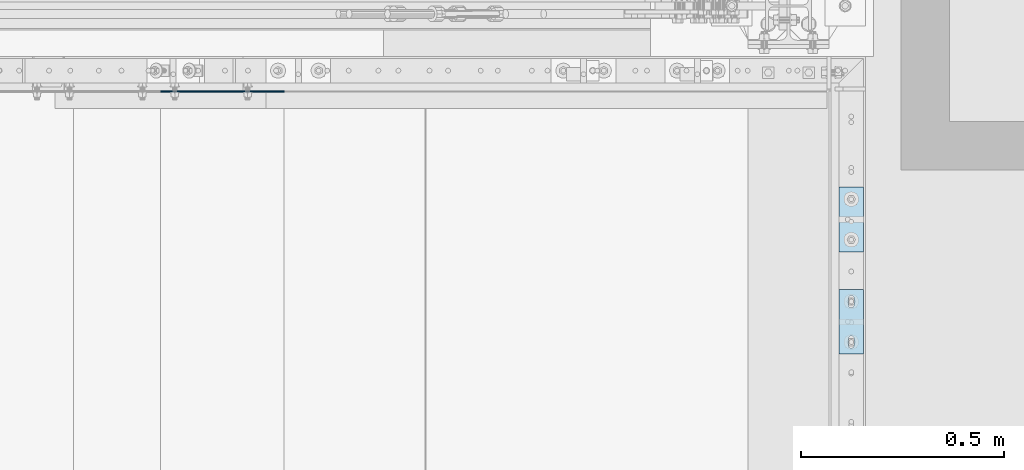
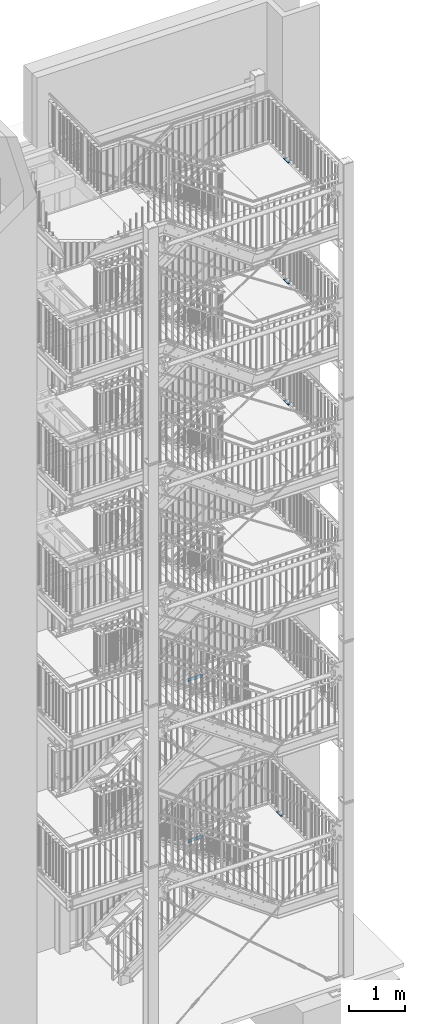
# One storey, part 210 of 831: 6 plates, 12 openings.
"""IFC2X3 building model written with IfcOpenShell, lengths in millimetres."""

from ifc_helpers import new_model, entity, si_unit, converted_unit, point, frame, frame_2d, origin, origin_with_axes, origin_2d_with_axis, place, context, project, spatial, polyline, circle_curve, line_curve, trimmed, segment, composite_curve, circle, outline, extrude, material, layer, layer_set, element, save


model = new_model("IFC2X3")

# Units and contexts
model_context = context("Model", 3, precision=1e-09, world=origin_with_axes())
ifc_project = project(units=[si_unit("LENGTHUNIT", "METRE", prefix="MILLI"), si_unit("AREAUNIT", "SQUARE_METRE"), si_unit("VOLUMEUNIT", "CUBIC_METRE"), converted_unit("PLANEANGLEUNIT", "DEGREE", entity("IfcPlaneAngleMeasure", 0.01745329), si_unit("PLANEANGLEUNIT", "RADIAN"), dimensions=[0, 0, 0, 0, 0, 0, 0])], contexts=[model_context])

# Site, building, storey
site_placement = place(None, origin_with_axes())
site = spatial("IfcSite", under=ifc_project, at=site_placement, Name="Site", CompositionType="ELEMENT")
building_placement = place(site_placement, origin_with_axes())
building = spatial("IfcBuilding", under=site, at=building_placement, Name="Struktur 1", CompositionType="ELEMENT")
storey_placement = place(building_placement, origin_with_axes())
storey = spatial("IfcBuildingStorey", under=building, at=storey_placement, Name="Default Storey", CompositionType="ELEMENT", Elevation=0.0)

# Plate, openings
ifc_material = material(Name="S235JR")
ifc_layer_1 = layer(ifc_material, 20.0)
ifc_layer_set_1 = layer_set([ifc_layer_1], Name="S235JR")
plate_1_placement = place(None, frame((9051.713402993, 6656.736257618, 11265.5000003), z_axis=(0.0, 0.0, 1.0), x_axis=(0.0, 1.0, 0.0)))
plate_1 = element("IfcPlate", 1, at=plate_1_placement, inside=storey, material=ifc_layer_set_1, Name="Plate#505", ObjectType="Plate#505", context=model_context, shape_type="SweptSolid", body=[
    extrude(outline(polyline([(0.0, 0.0), (160.0, 0.0), (160.0, 60.0), (0.0, 60.0), (0.0, 0.0)])), origin_with_axes(), (0.0, 0.0, 1.0), 20.0),
])
opening_1_placement = place(plate_1_placement, frame((38.0, 37.001, 20.5), z_axis=(0.0, 0.0, 1.0), x_axis=(-1.0, 0.0, 0.0)))
element("IfcOpeningElement", 2, at=opening_1_placement, cuts=plate_1, ObjectType="Opening", context=model_context, shape_type="SweptSolid", body=[
    extrude(outline(composite_curve([segment(trimmed(line_curve((0.0, 0.0), (1.0, 0.0), 16.0), [point((0.0, 0.0))], [point((16.0, 0.0))], True, "CARTESIAN"), True, "CONTINUOUS"), segment(trimmed(circle_curve(frame_2d((16.0, 7.001), x_axis=(1.0, 0.0)), 7.001), [point((16.0, 0.0))], [point((16.0, 14.002))], True, "CARTESIAN"), True, "CONTINUOUS"), segment(trimmed(line_curve((16.0, 14.002), (-1.0, 0.0), 16.0), [point((16.0, 14.002))], [point((0.0, 14.002))], True, "CARTESIAN"), True, "CONTINUOUS"), segment(trimmed(circle_curve(frame_2d((0.0, 7.001), x_axis=(1.0, 0.0)), 7.001), [point((0.0, 14.002))], [point((0.0, 0.0))], True, "CARTESIAN"), True, "CONTINUOUS")], self_intersect=False)), origin(), (0.0, 0.0, -1.0), 21.0),
])
opening_2_placement = place(plate_1_placement, frame((138.0, 37.001, 20.5), z_axis=(0.0, 0.0, 1.0), x_axis=(-1.0, 0.0, 0.0)))
element("IfcOpeningElement", 3, at=opening_2_placement, cuts=plate_1, ObjectType="Opening", context=model_context, shape_type="SweptSolid", body=[
    extrude(outline(composite_curve([segment(trimmed(line_curve((0.0, 0.0), (1.0, 0.0), 16.0), [point((0.0, 0.0))], [point((16.0, 0.0))], True, "CARTESIAN"), True, "CONTINUOUS"), segment(trimmed(circle_curve(frame_2d((16.0, 7.001), x_axis=(1.0, 0.0)), 7.001), [point((16.0, 0.0))], [point((16.0, 14.002))], True, "CARTESIAN"), True, "CONTINUOUS"), segment(trimmed(line_curve((16.0, 14.002), (-1.0, 0.0), 16.0), [point((16.0, 14.002))], [point((0.0, 14.002))], True, "CARTESIAN"), True, "CONTINUOUS"), segment(trimmed(circle_curve(frame_2d((0.0, 7.001), x_axis=(1.0, 0.0)), 7.001), [point((0.0, 14.002))], [point((0.0, 0.0))], True, "CARTESIAN"), True, "CONTINUOUS")], self_intersect=False)), origin(), (0.0, 0.0, -1.0), 21.0),
])

plate_2_placement = place(None, frame((9051.713402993, 6656.736257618, 13896.5000001), z_axis=(0.0, 0.0, 1.0), x_axis=(0.0, 1.0, 0.0)))
plate_2 = element("IfcPlate", 4, at=plate_2_placement, inside=storey, material=ifc_layer_set_1, Name="Plate#505", ObjectType="Plate#505", context=model_context, shape_type="SweptSolid", body=[
    extrude(outline(polyline([(0.0, 0.0), (160.0, 0.0), (160.0, 60.0), (0.0, 60.0), (0.0, 0.0)])), origin_with_axes(), (0.0, 0.0, 1.0), 20.0),
])
opening_3_placement = place(plate_2_placement, frame((38.0, 37.001, 20.5), z_axis=(0.0, 0.0, 1.0), x_axis=(-1.0, 0.0, 0.0)))
element("IfcOpeningElement", 5, at=opening_3_placement, cuts=plate_2, ObjectType="Opening", context=model_context, shape_type="SweptSolid", body=[
    extrude(outline(composite_curve([segment(trimmed(line_curve((0.0, 0.0), (1.0, 0.0), 16.0), [point((0.0, 0.0))], [point((16.0, 0.0))], True, "CARTESIAN"), True, "CONTINUOUS"), segment(trimmed(circle_curve(frame_2d((16.0, 7.001), x_axis=(1.0, 0.0)), 7.001), [point((16.0, 0.0))], [point((16.0, 14.002))], True, "CARTESIAN"), True, "CONTINUOUS"), segment(trimmed(line_curve((16.0, 14.002), (-1.0, 0.0), 16.0), [point((16.0, 14.002))], [point((0.0, 14.002))], True, "CARTESIAN"), True, "CONTINUOUS"), segment(trimmed(circle_curve(frame_2d((0.0, 7.001), x_axis=(1.0, 0.0)), 7.001), [point((0.0, 14.002))], [point((0.0, 0.0))], True, "CARTESIAN"), True, "CONTINUOUS")], self_intersect=False)), origin(), (0.0, 0.0, -1.0), 21.0),
])
opening_4_placement = place(plate_2_placement, frame((138.0, 37.001, 20.5), z_axis=(0.0, 0.0, 1.0), x_axis=(-1.0, 0.0, 0.0)))
element("IfcOpeningElement", 6, at=opening_4_placement, cuts=plate_2, ObjectType="Opening", context=model_context, shape_type="SweptSolid", body=[
    extrude(outline(composite_curve([segment(trimmed(line_curve((0.0, 0.0), (1.0, 0.0), 16.0), [point((0.0, 0.0))], [point((16.0, 0.0))], True, "CARTESIAN"), True, "CONTINUOUS"), segment(trimmed(circle_curve(frame_2d((16.0, 7.001), x_axis=(1.0, 0.0)), 7.001), [point((16.0, 0.0))], [point((16.0, 14.002))], True, "CARTESIAN"), True, "CONTINUOUS"), segment(trimmed(line_curve((16.0, 14.002), (-1.0, 0.0), 16.0), [point((16.0, 14.002))], [point((0.0, 14.002))], True, "CARTESIAN"), True, "CONTINUOUS"), segment(trimmed(circle_curve(frame_2d((0.0, 7.001), x_axis=(1.0, 0.0)), 7.001), [point((0.0, 14.002))], [point((0.0, 0.0))], True, "CARTESIAN"), True, "CONTINUOUS")], self_intersect=False)), origin(), (0.0, 0.0, -1.0), 21.0),
])

plate_3_placement = place(None, frame((9051.713402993, 6656.736257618, 16524.0000003), z_axis=(0.0, 0.0, 1.0), x_axis=(0.0, 1.0, 0.0)))
plate_3 = element("IfcPlate", 7, at=plate_3_placement, inside=storey, material=ifc_layer_set_1, Name="Plate#505", ObjectType="Plate#505", context=model_context, shape_type="SweptSolid", body=[
    extrude(outline(polyline([(0.0, 0.0), (160.0, 0.0), (160.0, 60.0), (0.0, 60.0), (0.0, 0.0)])), origin_with_axes(), (0.0, 0.0, 1.0), 20.0),
])
opening_5_placement = place(plate_3_placement, frame((38.0, 37.001, 20.5), z_axis=(0.0, 0.0, 1.0), x_axis=(-1.0, 0.0, 0.0)))
element("IfcOpeningElement", 8, at=opening_5_placement, cuts=plate_3, ObjectType="Opening", context=model_context, shape_type="SweptSolid", body=[
    extrude(outline(composite_curve([segment(trimmed(line_curve((0.0, 0.0), (1.0, 0.0), 16.0), [point((0.0, 0.0))], [point((16.0, 0.0))], True, "CARTESIAN"), True, "CONTINUOUS"), segment(trimmed(circle_curve(frame_2d((16.0, 7.001), x_axis=(1.0, 0.0)), 7.001), [point((16.0, 0.0))], [point((16.0, 14.002))], True, "CARTESIAN"), True, "CONTINUOUS"), segment(trimmed(line_curve((16.0, 14.002), (-1.0, 0.0), 16.0), [point((16.0, 14.002))], [point((0.0, 14.002))], True, "CARTESIAN"), True, "CONTINUOUS"), segment(trimmed(circle_curve(frame_2d((0.0, 7.001), x_axis=(1.0, 0.0)), 7.001), [point((0.0, 14.002))], [point((0.0, 0.0))], True, "CARTESIAN"), True, "CONTINUOUS")], self_intersect=False)), origin(), (0.0, 0.0, -1.0), 21.0),
])
opening_6_placement = place(plate_3_placement, frame((138.0, 37.001, 20.5), z_axis=(0.0, 0.0, 1.0), x_axis=(-1.0, 0.0, 0.0)))
element("IfcOpeningElement", 9, at=opening_6_placement, cuts=plate_3, ObjectType="Opening", context=model_context, shape_type="SweptSolid", body=[
    extrude(outline(composite_curve([segment(trimmed(line_curve((0.0, 0.0), (1.0, 0.0), 16.0), [point((0.0, 0.0))], [point((16.0, 0.0))], True, "CARTESIAN"), True, "CONTINUOUS"), segment(trimmed(circle_curve(frame_2d((16.0, 7.001), x_axis=(1.0, 0.0)), 7.001), [point((16.0, 0.0))], [point((16.0, 14.002))], True, "CARTESIAN"), True, "CONTINUOUS"), segment(trimmed(line_curve((16.0, 14.002), (-1.0, 0.0), 16.0), [point((16.0, 14.002))], [point((0.0, 14.002))], True, "CARTESIAN"), True, "CONTINUOUS"), segment(trimmed(circle_curve(frame_2d((0.0, 7.001), x_axis=(1.0, 0.0)), 7.001), [point((0.0, 14.002))], [point((0.0, 0.0))], True, "CARTESIAN"), True, "CONTINUOUS")], self_intersect=False)), origin(), (0.0, 0.0, -1.0), 21.0),
])

plate_4_placement = place(None, frame((9051.713402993, 6909.429031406, 2181.0526312), z_axis=(0.0, 0.0, 1.0), x_axis=(0.0, 1.0, 0.0)))
plate_4 = element("IfcPlate", 10, at=plate_4_placement, inside=storey, material=ifc_layer_set_1, Name="Plate#504", ObjectType="Plate#504", context=model_context, shape_type="SweptSolid", body=[
    extrude(outline(polyline([(0.0, 0.0), (160.0, 0.0), (160.0, 60.0), (0.0, 60.0), (0.0, 0.0)])), origin_with_axes(), (0.0, 0.0, 1.0), 20.0),
])
opening_7_placement = place(plate_4_placement, frame((38.0, 37.001, 20.5), z_axis=(0.0, 0.0, 1.0), x_axis=(-1.0, 0.0, 0.0)))
element("IfcOpeningElement", 11, at=opening_7_placement, cuts=plate_4, ObjectType="Opening", context=model_context, shape_type="SweptSolid", body=[
    extrude(outline(composite_curve([segment(trimmed(line_curve((0.0, 0.0), (1.0, 0.0), 16.0), [point((0.0, 0.0))], [point((16.0, 0.0))], True, "CARTESIAN"), True, "CONTINUOUS"), segment(trimmed(circle_curve(frame_2d((16.0, 7.001), x_axis=(1.0, 0.0)), 7.001), [point((16.0, 0.0))], [point((16.0, 14.002))], True, "CARTESIAN"), True, "CONTINUOUS"), segment(trimmed(line_curve((16.0, 14.002), (-1.0, 0.0), 16.0), [point((16.0, 14.002))], [point((0.0, 14.002))], True, "CARTESIAN"), True, "CONTINUOUS"), segment(trimmed(circle_curve(frame_2d((0.0, 7.001), x_axis=(1.0, 0.0)), 7.001), [point((0.0, 14.002))], [point((0.0, 0.0))], True, "CARTESIAN"), True, "CONTINUOUS")], self_intersect=False)), origin(), (0.0, 0.0, -1.0), 21.0),
])
opening_8_placement = place(plate_4_placement, frame((138.0, 37.001, 20.5), z_axis=(0.0, 0.0, 1.0), x_axis=(-1.0, 0.0, 0.0)))
element("IfcOpeningElement", 12, at=opening_8_placement, cuts=plate_4, ObjectType="Opening", context=model_context, shape_type="SweptSolid", body=[
    extrude(outline(composite_curve([segment(trimmed(line_curve((0.0, 0.0), (1.0, 0.0), 16.0), [point((0.0, 0.0))], [point((16.0, 0.0))], True, "CARTESIAN"), True, "CONTINUOUS"), segment(trimmed(circle_curve(frame_2d((16.0, 7.001), x_axis=(1.0, 0.0)), 7.001), [point((16.0, 0.0))], [point((16.0, 14.002))], True, "CARTESIAN"), True, "CONTINUOUS"), segment(trimmed(line_curve((16.0, 14.002), (-1.0, 0.0), 16.0), [point((16.0, 14.002))], [point((0.0, 14.002))], True, "CARTESIAN"), True, "CONTINUOUS"), segment(trimmed(circle_curve(frame_2d((0.0, 7.001), x_axis=(1.0, 0.0)), 7.001), [point((0.0, 14.002))], [point((0.0, 0.0))], True, "CARTESIAN"), True, "CONTINUOUS")], self_intersect=False)), origin(), (0.0, 0.0, -1.0), 21.0),
])

ifc_layer_2 = layer(ifc_material, 3.0)
ifc_layer_set_2 = layer_set([ifc_layer_2], Name="S235JR")
plate_5_placement = place(None, frame((7316.713402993, 7306.736971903, 2035.947368), z_axis=(0.0, -1.0, 0.0), x_axis=(0.0, 0.0, -1.0)))
plate_5 = element("IfcPlate", 13, at=plate_5_placement, inside=storey, material=ifc_layer_set_2, Name="Grate_Step#58", ObjectType="Grate_Step#58", context=model_context, shape_type="SweptSolid", body=[
    extrude(outline(polyline([(0.0, 0.0), (70.0, 0.0), (70.0, 275.0), (40.0, 305.0), (0.0, 305.0), (0.0, 0.0)])), origin_with_axes(), (0.0, 0.0, 1.0), 3.0),
])
opening_9_placement = place(plate_5_placement, frame((55.0, 35.0, 3.5), z_axis=(0.0, 0.0, -1.0), x_axis=(0.0, 1.0, 0.0)))
element("IfcOpeningElement", 14, at=opening_9_placement, cuts=plate_5, ObjectType="Opening", context=model_context, shape_type="SweptSolid", body=[
    extrude(circle(Radius=7.001, at=origin_2d_with_axis()), origin(), (0.0, 0.0, 1.0), 4.0),
])
opening_10_placement = place(plate_5_placement, frame((55.0, 215.0, 3.5), z_axis=(0.0, 0.0, -1.0), x_axis=(0.0, 1.0, 0.0)))
element("IfcOpeningElement", 15, at=opening_10_placement, cuts=plate_5, ObjectType="Opening", context=model_context, shape_type="SweptSolid", body=[
    extrude(outline(composite_curve([segment(trimmed(line_curve((-9.5, -7.001), (1.0, 0.0), 19.0), [point((-9.5, -7.001))], [point((9.5, -7.001))], True, "CARTESIAN"), True, "CONTINUOUS"), segment(trimmed(circle_curve(frame_2d((9.5, 0.0), x_axis=(1.0, 0.0)), 7.001), [point((9.5, -7.001))], [point((9.5, 7.001))], True, "CARTESIAN"), True, "CONTINUOUS"), segment(trimmed(line_curve((9.5, 7.001), (-1.0, 0.0), 19.0), [point((9.5, 7.001))], [point((-9.5, 7.001))], True, "CARTESIAN"), True, "CONTINUOUS"), segment(trimmed(circle_curve(frame_2d((-9.5, 0.0), x_axis=(1.0, 0.0)), 7.001), [point((-9.5, 7.001))], [point((-9.5, -7.001))], True, "CARTESIAN"), True, "CONTINUOUS")], self_intersect=False)), origin(), (0.0, 0.0, 1.0), 4.0),
])

plate_6_placement = place(None, frame((7316.713402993, 7306.736971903, 5532.105263), z_axis=(0.0, -1.0, 0.0), x_axis=(0.0, 0.0, -1.0)))
plate_6 = element("IfcPlate", 16, at=plate_6_placement, inside=storey, material=ifc_layer_set_2, Name="Grate_Step#58", ObjectType="Grate_Step#58", context=model_context, shape_type="SweptSolid", body=[
    extrude(outline(polyline([(0.0, 0.0), (70.0, 0.0), (70.0, 275.0), (40.0, 305.0), (0.0, 305.0), (0.0, 0.0)])), origin_with_axes(), (0.0, 0.0, 1.0), 3.0),
])
opening_11_placement = place(plate_6_placement, frame((55.0, 35.0, 3.5), z_axis=(0.0, 0.0, -1.0), x_axis=(0.0, 1.0, 0.0)))
element("IfcOpeningElement", 17, at=opening_11_placement, cuts=plate_6, ObjectType="Opening", context=model_context, shape_type="SweptSolid", body=[
    extrude(circle(Radius=7.001, at=origin_2d_with_axis()), origin(), (0.0, 0.0, 1.0), 4.0),
])
opening_12_placement = place(plate_6_placement, frame((55.0, 215.0, 3.5), z_axis=(0.0, 0.0, -1.0), x_axis=(0.0, 1.0, 0.0)))
element("IfcOpeningElement", 18, at=opening_12_placement, cuts=plate_6, ObjectType="Opening", context=model_context, shape_type="SweptSolid", body=[
    extrude(outline(composite_curve([segment(trimmed(line_curve((-9.5, -7.001), (1.0, 0.0), 19.0), [point((-9.5, -7.001))], [point((9.5, -7.001))], True, "CARTESIAN"), True, "CONTINUOUS"), segment(trimmed(circle_curve(frame_2d((9.5, 0.0), x_axis=(1.0, 0.0)), 7.001), [point((9.5, -7.001))], [point((9.5, 7.001))], True, "CARTESIAN"), True, "CONTINUOUS"), segment(trimmed(line_curve((9.5, 7.001), (-1.0, 0.0), 19.0), [point((9.5, 7.001))], [point((-9.5, 7.001))], True, "CARTESIAN"), True, "CONTINUOUS"), segment(trimmed(circle_curve(frame_2d((-9.5, 0.0), x_axis=(1.0, 0.0)), 7.001), [point((-9.5, 7.001))], [point((-9.5, -7.001))], True, "CARTESIAN"), True, "CONTINUOUS")], self_intersect=False)), origin(), (0.0, 0.0, 1.0), 4.0),
])

save(model, "model.ifc")
